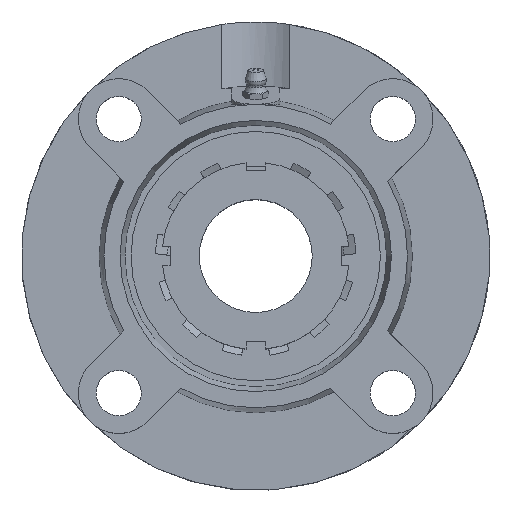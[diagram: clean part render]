
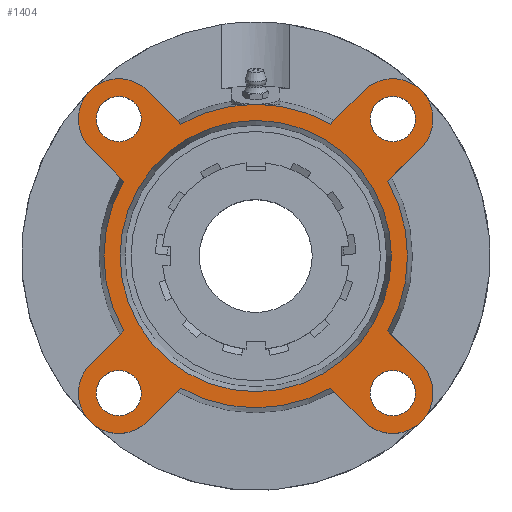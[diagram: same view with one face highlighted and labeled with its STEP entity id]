
A CAD part, top view. The second image highlights one B-rep face of the part: STEP entity #1404.
In plain terms, the highlighted planar face has unit normal (0, 0, 1).
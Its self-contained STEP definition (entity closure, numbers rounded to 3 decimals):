
#229=CARTESIAN_POINT('',(-35.426,-42.426,18.));
#230=VERTEX_POINT('',#229);
#231=CARTESIAN_POINT('',(-42.426,-42.426,18.));
#232=DIRECTION('',(0.0,0.0,-1.0));
#233=DIRECTION('',(1.0,0.0,0.0));
#234=AXIS2_PLACEMENT_3D('',#231,#232,#233);
#235=CIRCLE('',#234,7.);
#236=EDGE_CURVE('',#230,#230,#235,.T.);
#257=CARTESIAN_POINT('',(-35.426,42.426,18.));
#258=VERTEX_POINT('',#257);
#259=CARTESIAN_POINT('',(-42.426,42.426,18.));
#260=DIRECTION('',(0.0,0.0,-1.0));
#261=DIRECTION('',(1.0,0.0,0.0));
#262=AXIS2_PLACEMENT_3D('',#259,#260,#261);
#263=CIRCLE('',#262,7.);
#264=EDGE_CURVE('',#258,#258,#263,.T.);
#285=CARTESIAN_POINT('',(49.426,42.426,18.));
#286=VERTEX_POINT('',#285);
#287=CARTESIAN_POINT('',(42.426,42.426,18.));
#288=DIRECTION('',(0.0,0.0,-1.0));
#289=DIRECTION('',(1.0,0.0,0.0));
#290=AXIS2_PLACEMENT_3D('',#287,#288,#289);
#291=CIRCLE('',#290,7.);
#292=EDGE_CURVE('',#286,#286,#291,.T.);
#313=CARTESIAN_POINT('',(49.426,-42.426,18.));
#314=VERTEX_POINT('',#313);
#315=CARTESIAN_POINT('',(42.426,-42.426,18.));
#316=DIRECTION('',(0.0,0.0,-1.0));
#317=DIRECTION('',(1.0,0.0,0.0));
#318=AXIS2_PLACEMENT_3D('',#315,#316,#317);
#319=CIRCLE('',#318,7.);
#320=EDGE_CURVE('',#314,#314,#319,.T.);
#413=CARTESIAN_POINT('',(0.0,42.0,18.0));
#414=VERTEX_POINT('',#413);
#415=CARTESIAN_POINT('',(0.0,0.,18.));
#416=DIRECTION('',(0.0,0.0,-1.0));
#417=DIRECTION('',(0.0,1.0,0.0));
#418=AXIS2_PLACEMENT_3D('',#415,#416,#417);
#419=CIRCLE('',#418,42.);
#420=EDGE_CURVE('',#414,#414,#419,.T.);
#702=CARTESIAN_POINT('',(0.,47.,18.));
#703=VERTEX_POINT('',#702);
#860=CARTESIAN_POINT('',(-23.198,40.876,18.));
#861=VERTEX_POINT('',#860);
#875=CARTESIAN_POINT('',(0.0,0.,18.));
#876=DIRECTION('',(0.0,0.0,1.0));
#877=DIRECTION('',(0.0,-1.0,0.0));
#878=AXIS2_PLACEMENT_3D('',#875,#876,#877);
#879=CIRCLE('',#878,47.);
#880=EDGE_CURVE('',#703,#861,#879,.T.);
#890=CARTESIAN_POINT('',(-23.198,-40.876,18.));
#891=VERTEX_POINT('',#890);
#907=CARTESIAN_POINT('',(-33.588,-51.265,18.));
#908=VERTEX_POINT('',#907);
#909=CARTESIAN_POINT('',(-23.198,-40.876,18.));
#910=DIRECTION('',(-0.707,-0.707,0.0));
#911=VECTOR('',#910,14.693);
#912=LINE('',#909,#911);
#913=EDGE_CURVE('',#891,#908,#912,.T.);
#937=CARTESIAN_POINT('',(-40.876,23.198,18.));
#938=VERTEX_POINT('',#937);
#954=CARTESIAN_POINT('',(-51.265,33.588,18.));
#955=VERTEX_POINT('',#954);
#956=CARTESIAN_POINT('',(-40.876,23.198,18.));
#957=DIRECTION('',(-0.707,0.707,0.0));
#958=VECTOR('',#957,14.693);
#959=LINE('',#956,#958);
#960=EDGE_CURVE('',#938,#955,#959,.T.);
#984=CARTESIAN_POINT('',(40.876,-23.198,18.));
#985=VERTEX_POINT('',#984);
#1001=CARTESIAN_POINT('',(51.265,-33.588,18.));
#1002=VERTEX_POINT('',#1001);
#1003=CARTESIAN_POINT('',(40.876,-23.198,18.));
#1004=DIRECTION('',(0.707,-0.707,0.0));
#1005=VECTOR('',#1004,14.693);
#1006=LINE('',#1003,#1005);
#1007=EDGE_CURVE('',#985,#1002,#1006,.T.);
#1031=CARTESIAN_POINT('',(23.198,40.876,18.));
#1032=VERTEX_POINT('',#1031);
#1046=CARTESIAN_POINT('',(33.588,51.265,18.));
#1047=VERTEX_POINT('',#1046);
#1048=CARTESIAN_POINT('',(23.198,40.876,18.));
#1049=DIRECTION('',(0.707,0.707,0.0));
#1050=VECTOR('',#1049,14.693);
#1051=LINE('',#1048,#1050);
#1052=EDGE_CURVE('',#1032,#1047,#1051,.T.);
#1071=CARTESIAN_POINT('',(40.876,23.198,18.));
#1072=VERTEX_POINT('',#1071);
#1094=CARTESIAN_POINT('',(51.265,33.588,18.));
#1095=VERTEX_POINT('',#1094);
#1102=CARTESIAN_POINT('',(51.265,33.588,18.));
#1103=DIRECTION('',(-0.707,-0.707,0.));
#1104=VECTOR('',#1103,14.693);
#1105=LINE('',#1102,#1104);
#1106=EDGE_CURVE('',#1095,#1072,#1105,.T.);
#1116=CARTESIAN_POINT('',(-51.265,-33.588,18.));
#1117=VERTEX_POINT('',#1116);
#1118=CARTESIAN_POINT('',(-42.426,-42.426,18.));
#1119=DIRECTION('',(0.0,0.0,-1.0));
#1120=DIRECTION('',(-0.707,0.707,0.0));
#1121=AXIS2_PLACEMENT_3D('',#1118,#1119,#1120);
#1122=CIRCLE('',#1121,12.5);
#1123=EDGE_CURVE('',#908,#1117,#1122,.T.);
#1158=CARTESIAN_POINT('',(-40.876,-23.198,18.0));
#1159=VERTEX_POINT('',#1158);
#1180=CARTESIAN_POINT('',(-51.265,-33.588,18.));
#1181=DIRECTION('',(0.707,0.707,0.));
#1182=VECTOR('',#1181,14.693);
#1183=LINE('',#1180,#1182);
#1184=EDGE_CURVE('',#1117,#1159,#1183,.T.);
#1194=CARTESIAN_POINT('',(-33.588,51.265,18.));
#1195=VERTEX_POINT('',#1194);
#1196=CARTESIAN_POINT('',(-42.426,42.426,18.));
#1197=DIRECTION('',(0.0,0.0,-1.0));
#1198=DIRECTION('',(0.707,0.707,0.0));
#1199=AXIS2_PLACEMENT_3D('',#1196,#1197,#1198);
#1200=CIRCLE('',#1199,12.5);
#1201=EDGE_CURVE('',#955,#1195,#1200,.T.);
#1229=CARTESIAN_POINT('',(-33.588,51.265,18.));
#1230=DIRECTION('',(0.707,-0.707,0.));
#1231=VECTOR('',#1230,14.693);
#1232=LINE('',#1229,#1231);
#1233=EDGE_CURVE('',#1195,#861,#1232,.T.);
#1243=CARTESIAN_POINT('',(33.588,-51.265,18.));
#1244=VERTEX_POINT('',#1243);
#1245=CARTESIAN_POINT('',(42.426,-42.426,18.));
#1246=DIRECTION('',(0.0,0.0,-1.0));
#1247=DIRECTION('',(-0.707,-0.707,0.0));
#1248=AXIS2_PLACEMENT_3D('',#1245,#1246,#1247);
#1249=CIRCLE('',#1248,12.5);
#1250=EDGE_CURVE('',#1002,#1244,#1249,.T.);
#1285=CARTESIAN_POINT('',(23.198,-40.876,18.0));
#1286=VERTEX_POINT('',#1285);
#1307=CARTESIAN_POINT('',(33.588,-51.265,18.));
#1308=DIRECTION('',(-0.707,0.707,0.));
#1309=VECTOR('',#1308,14.693);
#1310=LINE('',#1307,#1309);
#1311=EDGE_CURVE('',#1244,#1286,#1310,.T.);
#1321=CARTESIAN_POINT('',(42.426,42.426,18.));
#1322=DIRECTION('',(0.0,0.0,-1.0));
#1323=DIRECTION('',(0.707,-0.707,0.0));
#1324=AXIS2_PLACEMENT_3D('',#1321,#1322,#1323);
#1325=CIRCLE('',#1324,12.5);
#1326=EDGE_CURVE('',#1047,#1095,#1325,.T.);
#1341=CARTESIAN_POINT('',(0.0,-23.5,18.0));
#1342=DIRECTION('',(0.0,0.0,1.0));
#1343=DIRECTION('',(1.0,0.0,0.0));
#1344=AXIS2_PLACEMENT_3D('',#1341,#1342,#1343);
#1345=PLANE('',#1344);
#1346=CARTESIAN_POINT('',(0.0,0.,18.));
#1347=DIRECTION('',(0.0,0.0,1.0));
#1348=DIRECTION('',(0.0,-1.0,0.0));
#1349=AXIS2_PLACEMENT_3D('',#1346,#1347,#1348);
#1350=CIRCLE('',#1349,47.);
#1351=EDGE_CURVE('',#891,#1286,#1350,.T.);
#1352=ORIENTED_EDGE('',*,*,#1351,.T.);
#1353=ORIENTED_EDGE('',*,*,#1311,.F.);
#1354=ORIENTED_EDGE('',*,*,#1250,.F.);
#1355=ORIENTED_EDGE('',*,*,#1007,.F.);
#1356=CARTESIAN_POINT('',(0.0,0.,18.));
#1357=DIRECTION('',(0.0,0.0,1.0));
#1358=DIRECTION('',(0.0,-1.0,0.0));
#1359=AXIS2_PLACEMENT_3D('',#1356,#1357,#1358);
#1360=CIRCLE('',#1359,47.);
#1361=EDGE_CURVE('',#985,#1072,#1360,.T.);
#1362=ORIENTED_EDGE('',*,*,#1361,.T.);
#1363=ORIENTED_EDGE('',*,*,#1106,.F.);
#1364=ORIENTED_EDGE('',*,*,#1326,.F.);
#1365=ORIENTED_EDGE('',*,*,#1052,.F.);
#1366=CARTESIAN_POINT('',(0.0,0.,18.));
#1367=DIRECTION('',(0.0,0.0,1.0));
#1368=DIRECTION('',(0.0,-1.0,0.0));
#1369=AXIS2_PLACEMENT_3D('',#1366,#1367,#1368);
#1370=CIRCLE('',#1369,47.);
#1371=EDGE_CURVE('',#1032,#703,#1370,.T.);
#1372=ORIENTED_EDGE('',*,*,#1371,.T.);
#1373=ORIENTED_EDGE('',*,*,#880,.T.);
#1374=ORIENTED_EDGE('',*,*,#1233,.F.);
#1375=ORIENTED_EDGE('',*,*,#1201,.F.);
#1376=ORIENTED_EDGE('',*,*,#960,.F.);
#1377=CARTESIAN_POINT('',(0.0,0.,18.));
#1378=DIRECTION('',(0.0,0.0,1.0));
#1379=DIRECTION('',(0.0,-1.0,0.0));
#1380=AXIS2_PLACEMENT_3D('',#1377,#1378,#1379);
#1381=CIRCLE('',#1380,47.);
#1382=EDGE_CURVE('',#938,#1159,#1381,.T.);
#1383=ORIENTED_EDGE('',*,*,#1382,.T.);
#1384=ORIENTED_EDGE('',*,*,#1184,.F.);
#1385=ORIENTED_EDGE('',*,*,#1123,.F.);
#1386=ORIENTED_EDGE('',*,*,#913,.F.);
#1387=EDGE_LOOP('',(#1352,#1353,#1354,#1355,#1362,#1363,#1364,#1365,#1372,#1373,#1374,#1375,#1376,#1383,#1384,#1385,#1386));
#1388=FACE_OUTER_BOUND('',#1387,.T.);
#1389=ORIENTED_EDGE('',*,*,#236,.T.);
#1390=EDGE_LOOP('',(#1389));
#1391=FACE_BOUND('',#1390,.T.);
#1392=ORIENTED_EDGE('',*,*,#264,.T.);
#1393=EDGE_LOOP('',(#1392));
#1394=FACE_BOUND('',#1393,.T.);
#1395=ORIENTED_EDGE('',*,*,#292,.T.);
#1396=EDGE_LOOP('',(#1395));
#1397=FACE_BOUND('',#1396,.T.);
#1398=ORIENTED_EDGE('',*,*,#320,.T.);
#1399=EDGE_LOOP('',(#1398));
#1400=FACE_BOUND('',#1399,.T.);
#1401=ORIENTED_EDGE('',*,*,#420,.T.);
#1402=EDGE_LOOP('',(#1401));
#1403=FACE_BOUND('',#1402,.T.);
#1404=ADVANCED_FACE('',(#1388,#1391,#1394,#1397,#1400,#1403),#1345,.T.);
